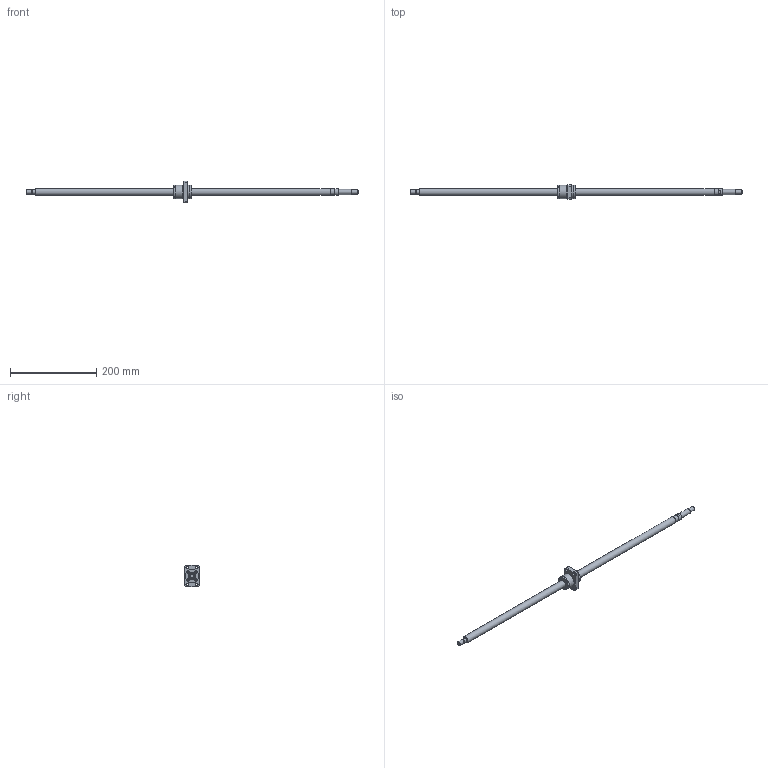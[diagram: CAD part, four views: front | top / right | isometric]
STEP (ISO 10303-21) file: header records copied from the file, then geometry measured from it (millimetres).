
FILE_DESCRIPTION(/* description */ ('STEP AP203'),/* implementation_level */ '2;1');
FILE_NAME(/* name */ 'BNK1616-3.6G0+771LC5Y(3630)',/* time_stamp */ '2024-07-09T09:31:03+02:00',/* author */ ('License CC BY-ND 4.0'),/* organization */ ('CADENAS'),/* preprocessor_version */ 'ST-DEVELOPER v19.3',/* originating_system */ 'PARTsolutions',/* authorisation */ ' ');
FILE_SCHEMA (('CONFIG_CONTROL_DESIGN'));
Length unit declared in the file: millimetre
Products named in the file (3): BNK1616-3.6G0+771LC5Y(3630); BNK 1616-3.6G0+771LC5Y Shaft; BNK 1616-3.6G0+771LC5Y0 Nut
Assembly tree (2 placements, depth 2):
  BNK1616-3.6G0+771LC5Y(3630)
    BNK 1616-3.6G0+771LC5Y Shaft
    BNK 1616-3.6G0+771LC5Y0 Nut
Bounding box: 771 x 34 x 50 mm (x, y, z)
Volume: 178344.1 mm3; surface area: 49370.3 mm2
Topology: 2 solids, 2 shells, 136 faces, 312 edges, 202 vertices
Faces by surface type: plane 75, cylinder 35, cone 20, torus 6
Full cylindrical faces by diameter (mm): 5.188 x1, 5.5 x8, 9.5 x4, 9.6 x1, 10 x3, 12 x1, 14 x1, 15 x1, 16 x2, 28.8 x1, 31.8 x2, 32 x2
Entity records: 3705 total; most frequent: CARTESIAN_POINT 676, DIRECTION 626, ORIENTED_EDGE 530, EDGE_CURVE 265, AXIS2_PLACEMENT_3D 247, FACE_BOUND 210, EDGE_LOOP 209, VERTEX_POINT 197
